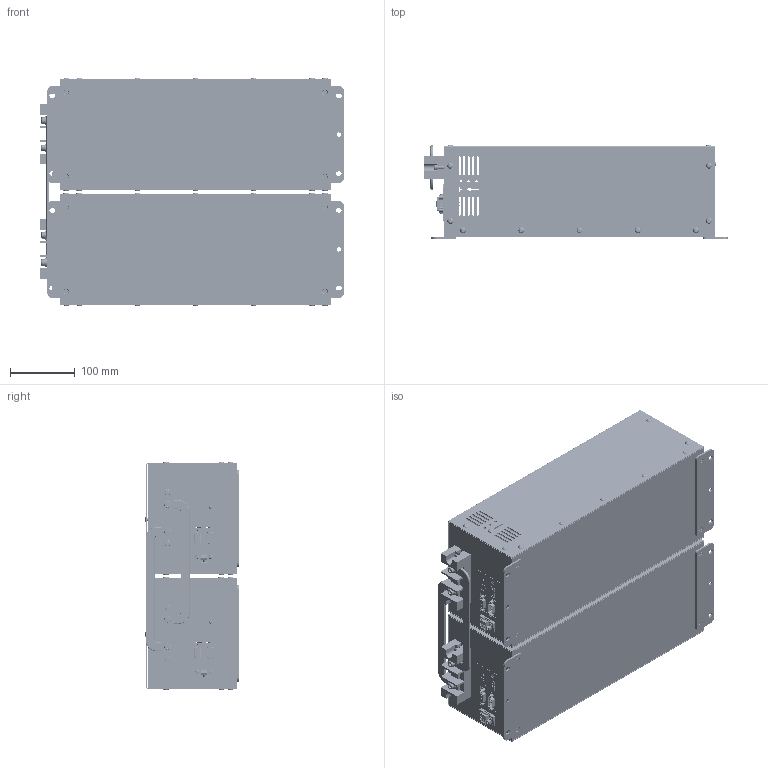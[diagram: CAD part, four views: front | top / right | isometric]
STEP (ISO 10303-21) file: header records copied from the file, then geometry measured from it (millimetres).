
FILE_DESCRIPTION(/* description */ (''),/* implementation_level */ '2;1');
FILE_NAME(/* name */ 'G:\016_배터리 버스바 도면\VX2COM\[3D 도면]\[ STEP, IGES ]\VX2,VX2COM BUSBAR.stp',/* time_stamp */ '2023-08-24T15:34:08+09:00',/* author */ ('jjang'),/* organization */ (''),/* preprocessor_version */ 'ST-DEVELOPER v18.1',/* originating_system */ 'Autodesk Inventor 2021',/* authorisation */ '');
FILE_SCHEMA (('AUTOMOTIVE_DESIGN { 1 0 10303 214 3 1 1 }'));
Products named in the file (1): $VX2COM BUSBAR ASS'Y_Shrinkwrap_1
Bounding box: 468 x 144.85 x 352.4 mm (x, y, z)
Volume: 1146324.7 mm3; surface area: 1439071.2 mm2
Topology: 22 solids, 22 shells, 5662 faces, 17546 edges, 12648 vertices
Faces by surface type: plane 3168, cylinder 1382, bspline 852, torus 184, cone 50, sphere 26
Full cylindrical faces by diameter (mm): 0.609 x2, 0.61 x54, 0.635 x18, 0.9 x4, 1.397 x18, 2.286 x18, 2.8 x16, 2.957 x8, 3 x4, 3.048 x8, 3.6 x8, 3.783 x4, 3.8 x12, 3.9 x4, 4 x30, 4.3 x8, 4.5 x12, 5 x14, 5.3 x80, 5.4 x4, 5.429 x4, 5.5 x12, 5.9 x4, 6 x10, 6.082 x2, 6.6 x4, 7 x4, 7.5 x8, 8 x2, 8.584 x4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
Entity records: 230918 total; most frequent: CARTESIAN_POINT 71629, ORIENTED_EDGE 35052, DIRECTION 28010, EDGE_CURVE 17526, VERTEX_POINT 12648, LINE 9656, VECTOR 9656, AXIS2_PLACEMENT_3D 9177
